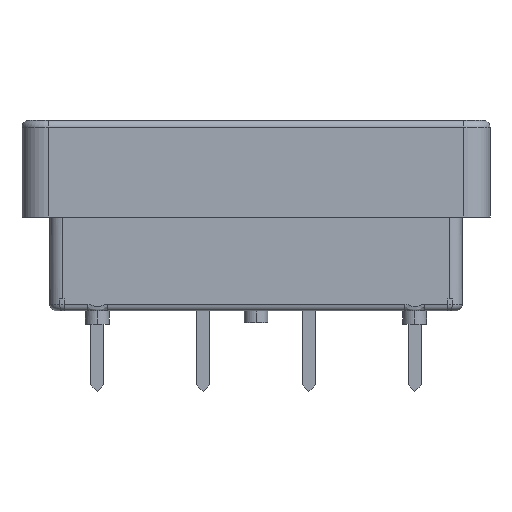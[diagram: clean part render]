
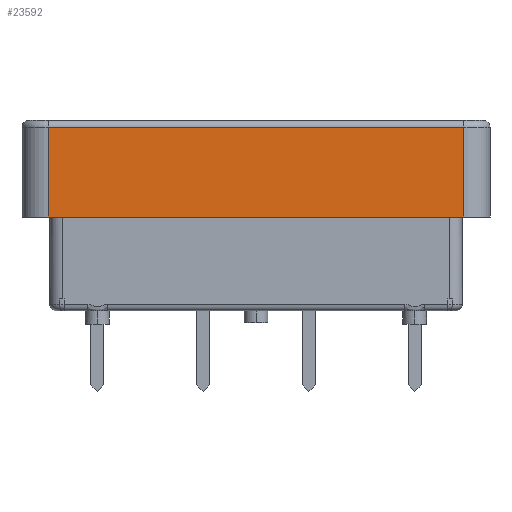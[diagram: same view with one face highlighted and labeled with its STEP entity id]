
A CAD part, front view. The second image highlights one B-rep face of the part: STEP entity #23592.
In plain terms, the highlighted planar face has unit normal (0, -1, 0).
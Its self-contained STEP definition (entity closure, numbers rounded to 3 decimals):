
#703 = CARTESIAN_POINT ( 'NONE',  ( 2., 0., 19.999 ) ) ;
#1475 = CARTESIAN_POINT ( 'NONE',  ( 33.4, 0., 13.199 ) ) ;
#5978 = AXIS2_PLACEMENT_3D ( 'NONE', #18275, #22951, #28277 ) ;
#9228 = VERTEX_POINT ( 'NONE', #30898 ) ;
#9465 = LINE ( 'NONE', #1475, #28387 ) ;
#10231 = EDGE_CURVE ( 'NONE', #23917, #25344, #9465, .T. ) ;
#10753 = VECTOR ( 'NONE', #24603, 1000. ) ;
#11326 = VERTEX_POINT ( 'NONE', #21825 ) ;
#11463 = DIRECTION ( 'NONE',  ( 1., 0., 0. ) ) ;
#11779 = LINE ( 'NONE', #16468, #31888 ) ;
#11962 = DIRECTION ( 'NONE',  ( 0., 0., 1. ) ) ;
#13261 = FACE_OUTER_BOUND ( 'NONE', #31625, .T. ) ;
#13582 = VECTOR ( 'NONE', #13688, 1000. ) ;
#13688 = DIRECTION ( 'NONE',  ( -1., 0., 0. ) ) ;
#14262 = LINE ( 'NONE', #26611, #10753 ) ;
#15348 = EDGE_CURVE ( 'NONE', #25344, #9228, #29180, .T. ) ;
#16468 = CARTESIAN_POINT ( 'NONE',  ( 35.4, 0., 13.199 ) ) ;
#16498 = EDGE_CURVE ( 'NONE', #11326, #23917, #11779, .T. ) ;
#18275 = CARTESIAN_POINT ( 'NONE',  ( 35.4, 0., 13.199 ) ) ;
#18391 = ORIENTED_EDGE ( 'NONE', *, *, #31275, .T. ) ;
#18468 = ORIENTED_EDGE ( 'NONE', *, *, #16498, .T. ) ;
#20775 = PLANE ( 'NONE',  #5978 ) ;
#21825 = CARTESIAN_POINT ( 'NONE',  ( 2., 0., 13.199 ) ) ;
#21937 = ORIENTED_EDGE ( 'NONE', *, *, #15348, .T. ) ;
#22951 = DIRECTION ( 'NONE',  ( 0., -1., 0. ) ) ;
#23592 = ADVANCED_FACE ( 'NONE', ( #13261 ), #20775, .T. ) ;
#23917 = VERTEX_POINT ( 'NONE', #30897 ) ;
#24603 = DIRECTION ( 'NONE',  ( 0., 0., -1. ) ) ;
#25344 = VERTEX_POINT ( 'NONE', #32442 ) ;
#26611 = CARTESIAN_POINT ( 'NONE',  ( 2., 0., 13.199 ) ) ;
#28277 = DIRECTION ( 'NONE',  ( 1., 0., 0. ) ) ;
#28387 = VECTOR ( 'NONE', #11962, 1000. ) ;
#29180 = LINE ( 'NONE', #703, #13582 ) ;
#30897 = CARTESIAN_POINT ( 'NONE',  ( 33.4, 0., 13.199 ) ) ;
#30898 = CARTESIAN_POINT ( 'NONE',  ( 2., 0., 19.999 ) ) ;
#31275 = EDGE_CURVE ( 'NONE', #9228, #11326, #14262, .T. ) ;
#31625 = EDGE_LOOP ( 'NONE', ( #31654, #21937, #18391, #18468 ) ) ;
#31654 = ORIENTED_EDGE ( 'NONE', *, *, #10231, .T. ) ;
#31888 = VECTOR ( 'NONE', #11463, 1000. ) ;
#32442 = CARTESIAN_POINT ( 'NONE',  ( 33.4, 0., 19.999 ) ) ;
